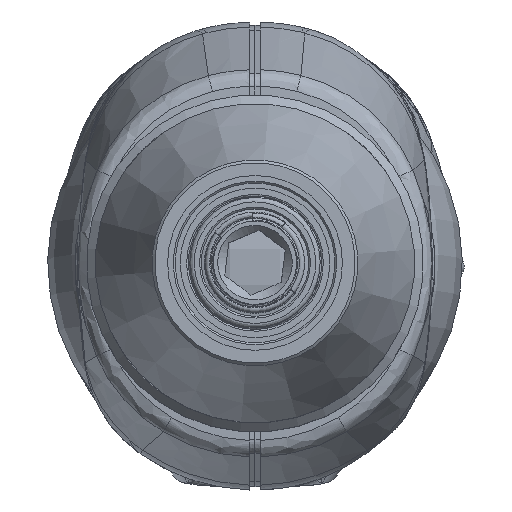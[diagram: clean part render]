
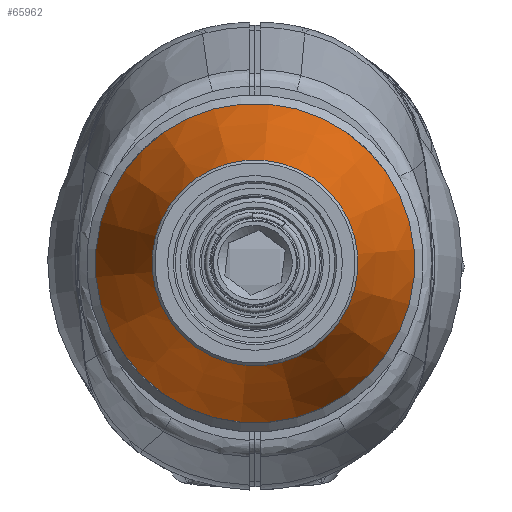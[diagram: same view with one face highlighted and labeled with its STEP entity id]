
A CAD part, top view. The second image highlights one B-rep face of the part: STEP entity #65962.
In plain terms, the highlighted conical face has half-angle 19.855 degrees and reference radius 11.5 mm.
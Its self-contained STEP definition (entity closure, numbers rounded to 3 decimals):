
#4995 = VERTEX_POINT ( 'NONE', #40964 ) ;
#11233 = CONICAL_SURFACE ( 'NONE', #34289, 11.5, 0.347 ) ;
#13157 = ORIENTED_EDGE ( 'NONE', *, *, #28478, .T. ) ;
#15798 = DIRECTION ( 'NONE',  ( 0.707, 0.707, 0. ) ) ;
#16175 = CARTESIAN_POINT ( 'NONE',  ( -77.848, 28.875, 32.13 ) ) ;
#26978 = EDGE_LOOP ( 'NONE', ( #13157 ) ) ;
#28478 = EDGE_CURVE ( 'NONE', #77394, #77394, #44009, .T. ) ;
#33399 = CARTESIAN_POINT ( 'NONE',  ( -77.848, 28.875, 14.443 ) ) ;
#33799 = FACE_BOUND ( 'NONE', #26978, .T. ) ;
#34289 = AXIS2_PLACEMENT_3D ( 'NONE', #64616, #59363, #40181 ) ;
#34612 = AXIS2_PLACEMENT_3D ( 'NONE', #33399, #63824, #15798 ) ;
#40181 = DIRECTION ( 'NONE',  ( 0.707, 0.707, 0. ) ) ;
#40964 = CARTESIAN_POINT ( 'NONE',  ( -65.12, 41.602, 14.443 ) ) ;
#44009 = CIRCLE ( 'NONE', #63229, 11.613 ) ;
#45403 = DIRECTION ( 'NONE',  ( -0.707, -0.707, 0. ) ) ;
#51431 = DIRECTION ( 'NONE',  ( 0., 0., -1. ) ) ;
#51724 = EDGE_CURVE ( 'NONE', #4995, #4995, #60124, .T. ) ;
#58094 = EDGE_LOOP ( 'NONE', ( #62106 ) ) ;
#58204 = FACE_OUTER_BOUND ( 'NONE', #58094, .T. ) ;
#59363 = DIRECTION ( 'NONE',  ( 0., 0., -1. ) ) ;
#60124 = CIRCLE ( 'NONE', #34612, 18. ) ;
#62106 = ORIENTED_EDGE ( 'NONE', *, *, #51724, .F. ) ;
#63229 = AXIS2_PLACEMENT_3D ( 'NONE', #16175, #51431, #45403 ) ;
#63824 = DIRECTION ( 'NONE',  ( 0., 0., -1. ) ) ;
#64211 = CARTESIAN_POINT ( 'NONE',  ( -86.06, 20.663, 32.13 ) ) ;
#64616 = CARTESIAN_POINT ( 'NONE',  ( -77.848, 28.875, 32.443 ) ) ;
#65962 = ADVANCED_FACE ( 'NONE', ( #33799, #58204 ), #11233, .T. ) ;
#77394 = VERTEX_POINT ( 'NONE', #64211 ) ;
